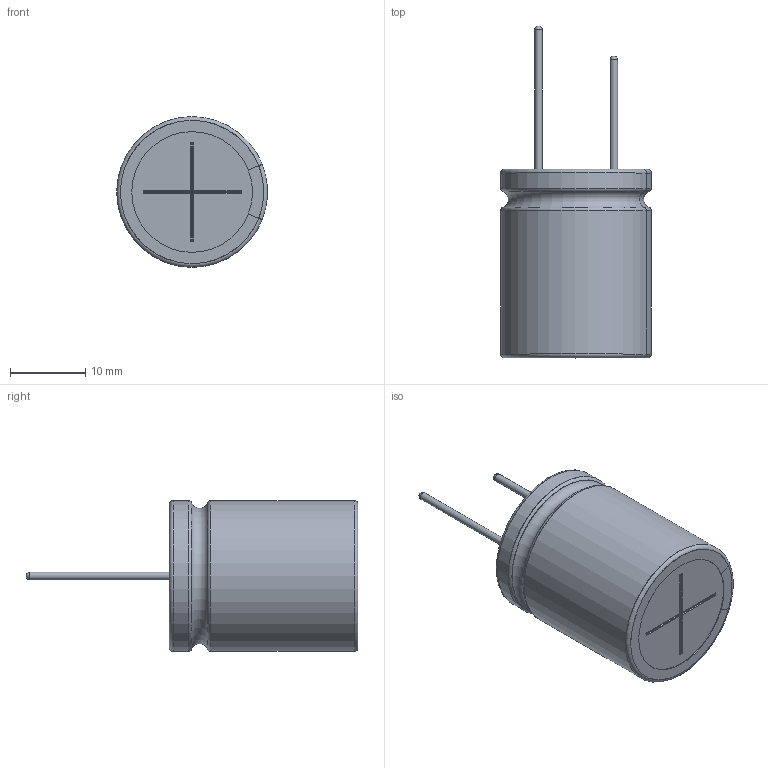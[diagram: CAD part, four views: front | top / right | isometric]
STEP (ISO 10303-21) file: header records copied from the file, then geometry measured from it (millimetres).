
FILE_DESCRIPTION(/* description */ (''),/* implementation_level */ '2;1');
FILE_NAME(/* name */ '20x25_Lead.stp',/* time_stamp */ '2017-09-05T15:10:42+09:00',/* author */ (''),/* organization */ (''),/* preprocessor_version */ 'ST-DEVELOPER v16',/* originating_system */ 'SIEMENS PLM Software NX 11.0',/* authorisation */ '');
FILE_SCHEMA (('AUTOMOTIVE_DESIGN { 1 0 10303 214 3 1 1 1 }'));
Length unit declared in the file: millimetre
Products named in the file (1): 20x25_Lead_0
Bounding box: 19.97 x 44 x 20 mm (x, y, z)
Volume: 7746.8 mm3; surface area: 5887.8 mm2
Topology: 3 solids, 3 shells, 100 faces, 252 edges, 160 vertices
Faces by surface type: cylinder 36, plane 28, torus 26, sphere 6, bspline 4
Full cylindrical faces by diameter (mm): 1 x2, 19.8 x2
Entity records: 3386 total; most frequent: CARTESIAN_POINT 605, DIRECTION 566, ORIENTED_EDGE 468, AXIS2_PLACEMENT_3D 235, EDGE_CURVE 234, VERTEX_POINT 154, CIRCLE 130, EDGE_LOOP 114
